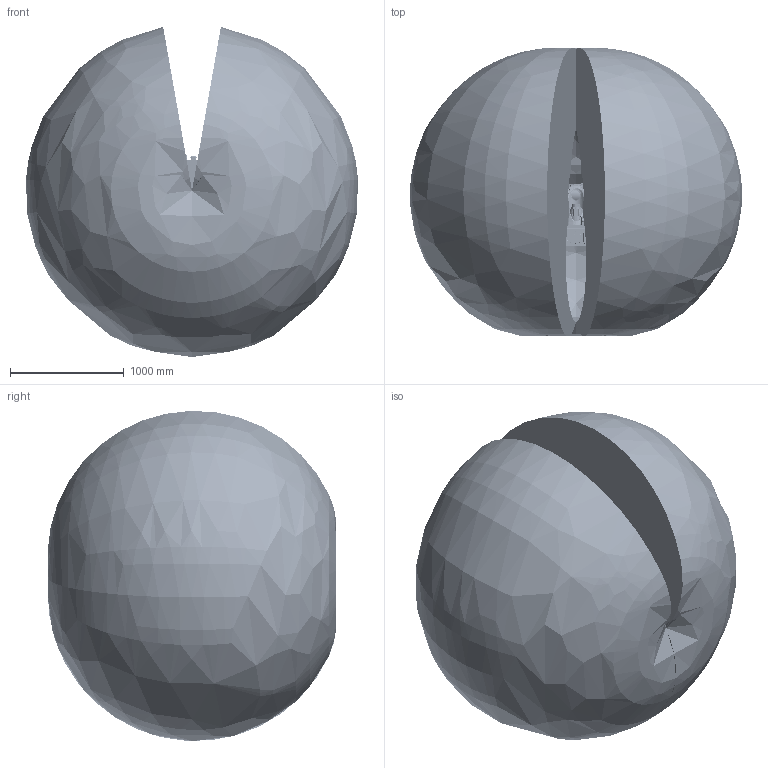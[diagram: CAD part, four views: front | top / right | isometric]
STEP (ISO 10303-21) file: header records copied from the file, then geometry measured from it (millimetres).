
FILE_DESCRIPTION((''),'2;1');
FILE_NAME('R6-1400H-B_ASM','2025-07-10T13:17:54',('Administrator'),(''),'CREO PARAMETRIC BY PTC INC, 2018260','CREO PARAMETRIC BY PTC INC, 2018260','');
FILE_SCHEMA(('CONFIG_CONTROL_DESIGN','SHAPE_APPEARANCE_LAYERS_GROUPS'));
Products named in the file (11): R6-1400H-B_BASE; R6-1400H-B_JOINT1; R6-1400H-B_JOINT2; R6-1400H-B_JOINT3; R6-1400H-B_JOINT4; R6-1400H-B_JOINT5; R6-1400H-B_JOINT6; R6-1400H-B_CABLE; R6-1400H-B_RANGE; R6-1400H-B_RANGE_2; R6-1400H-B_ASM
Assembly tree (10 placements, depth 2):
  R6-1400H-B_ASM
    R6-1400H-B_BASE
    R6-1400H-B_JOINT1
    R6-1400H-B_JOINT2
    R6-1400H-B_JOINT3
    R6-1400H-B_JOINT4
    R6-1400H-B_JOINT5
    R6-1400H-B_JOINT6
    R6-1400H-B_CABLE
    R6-1400H-B_RANGE
    R6-1400H-B_RANGE_2
Bounding box: 2914.87 x 2535.11 x 2898.85 mm (x, y, z)
Volume: 10691283455 mm3; surface area: 42714936.5 mm2
Topology: 10 solids, 72 shells, 13972 faces, 35452 edges, 21617 vertices
Faces by surface type: cylinder 4604, plane 3567, bspline 2801, torus 1971, cone 685, sphere 344
Entity records: 589733 total; most frequent: CARTESIAN_POINT 248997, ORIENTED_EDGE 69992, DIRECTION 63031, EDGE_CURVE 34996, AXIS2_PLACEMENT_3D 25252, VERTEX_POINT 21617, EDGE_LOOP 14681, CIRCLE 14060
